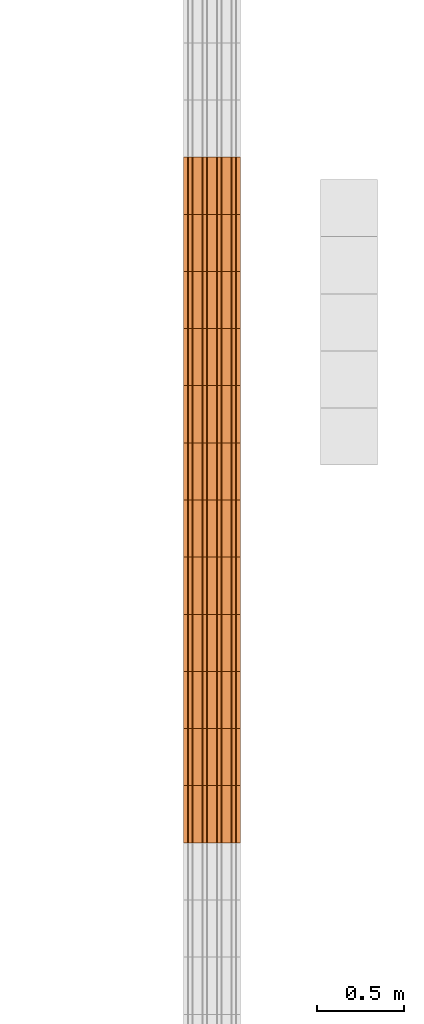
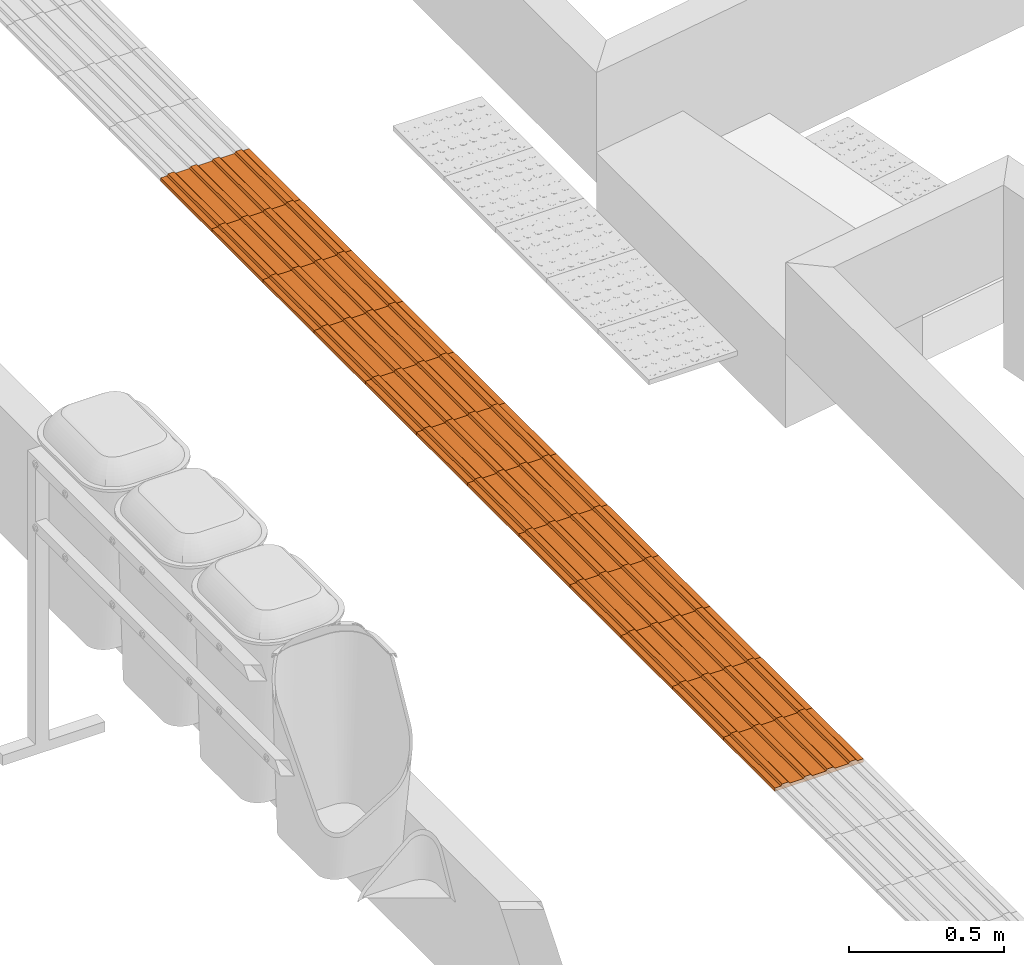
# One storey, part 195 of 237: 12 proxies.
"""IFC2X3 building model written with IfcOpenShell, lengths in millimetres."""

from ifc_helpers import new_model, entity, si_unit, converted_unit, derived_unit, money_unit, direction, frame, origin_with_axes, place, context, subcontext, project, spatial, open_shell, surface_model, source, transform, mapped, type_object, element, save


model = new_model("IFC2X3")

# Units and contexts
model_context = context("Model", 3, precision=0.01, world=origin_with_axes(), true_north=direction((0.0, 1.0)))
body_context = subcontext(model_context, "Body", "Model", "MODEL_VIEW")
ifc_project = project(units=[si_unit("LENGTHUNIT", "METRE", prefix="MILLI"), si_unit("AREAUNIT", "SQUARE_METRE"), si_unit("VOLUMEUNIT", "CUBIC_METRE"), converted_unit("PLANEANGLEUNIT", "DEGREE", entity("IfcPlaneAngleMeasure", 0.0174532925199), si_unit("PLANEANGLEUNIT", "RADIAN"), dimensions=[0, 0, 0, 0, 0, 0, 0]), money_unit("USD"), converted_unit("TIMEUNIT", "Year", entity("IfcTimeMeasure", 31556926.0), si_unit("TIMEUNIT", "SECOND"), dimensions=[0, 0, 1, 0, 0, 0, 0]), si_unit("MASSUNIT", "GRAM", prefix="KILO"), si_unit("THERMODYNAMICTEMPERATUREUNIT", "DEGREE_CELSIUS"), si_unit("LUMINOUSINTENSITYUNIT", "LUMEN"), si_unit("ENERGYUNIT", "JOULE", prefix="MEGA"), derived_unit("THERMALCONDUCTANCEUNIT", [(si_unit("POWERUNIT", "WATT"), 1), (si_unit("LENGTHUNIT", "METRE"), -1), (si_unit("THERMODYNAMICTEMPERATUREUNIT", "KELVIN"), -1)]), derived_unit("SPECIFICHEATCAPACITYUNIT", [(si_unit("ENERGYUNIT", "JOULE"), 1), (si_unit("MASSUNIT", "GRAM", prefix="KILO"), -1), (si_unit("THERMODYNAMICTEMPERATUREUNIT", "KELVIN"), -1)]), derived_unit("MASSDENSITYUNIT", [(si_unit("MASSUNIT", "GRAM", prefix="KILO"), 1), (si_unit("VOLUMEUNIT", "CUBIC_METRE"), -1)])], contexts=[model_context])

# Site, building, storey
site_placement = place(None, origin_with_axes())
site = spatial("IfcSite", under=ifc_project, at=site_placement, Name="Local", CompositionType="ELEMENT")
building_placement = place(site_placement, origin_with_axes())
building = spatial("IfcBuilding", under=site, at=building_placement, Name="Construção", CompositionType="ELEMENT")
storey_placement = place(building_placement, origin_with_axes())
storey = spatial("IfcBuildingStorey", under=building, at=storey_placement, Name="Pavimento Térreo", CompositionType="ELEMENT", Elevation=0.0)

# Proxies
building_element_proxy_type = type_object("IfcBuildingElementProxyType", Name="Piso Direcional 27", PredefinedType="NOTDEFINED")
shared_shape = source(origin_with_axes(), body_context, "Body", "SurfaceModel", [
    surface_model("IfcShellBasedSurfaceModel", [(0.0, -47.258225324, 4.02852049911), (330.0, -47.258225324, 4.02852049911), (330.0, -41.665004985, 10.6951871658), (0.0, -41.665004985, 10.6951871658)], [open_shell([[[0, 1, 2, 3]]])]),
    surface_model("IfcShellBasedSurfaceModel", [(330.0, -153.529411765, -9.30481283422), (330.0, 176.470588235, -9.30481283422), (330.0, 176.470588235, 4.02852049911), (330.0, 154.097706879, 4.02852049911), (330.0, 148.50448654, 10.6951871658), (330.0, 126.131605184, 10.6951871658), (330.0, 120.538384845, 4.02852049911), (330.0, 70.1994017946, 4.02852049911), (330.0, 64.6061814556, 10.6951871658), (330.0, 42.2333000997, 10.6951871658), (330.0, 36.6400797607, 4.02852049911), (330.0, -13.6989032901, 4.02852049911), (330.0, -19.2921236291, 10.6951871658), (330.0, -41.665004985, 10.6951871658), (330.0, -47.258225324, 4.02852049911), (330.0, -97.5972083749, 4.02852049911), (330.0, -103.190428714, 10.6951871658), (330.0, -125.56331007, 10.6951871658), (330.0, -131.156530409, 4.02852049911), (330.0, -153.529411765, 4.02852049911)], [open_shell([[[0, 1, 2, 3, 4, 5, 6, 7, 8, 9, 10, 11, 12, 13, 14, 15, 16, 17, 18, 19]]])]),
    surface_model("IfcShellBasedSurfaceModel", [(0.0, -19.2921236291, 10.6951871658), (330.0, -19.2921236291, 10.6951871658), (330.0, -13.6989032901, 4.02852049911), (0.0, -13.6989032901, 4.02852049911)], [open_shell([[[0, 1, 2, 3]]])]),
    surface_model("IfcShellBasedSurfaceModel", [(0.0, -103.190428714, 10.6951871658), (330.0, -103.190428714, 10.6951871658), (330.0, -97.5972083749, 4.02852049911), (0.0, -97.5972083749, 4.02852049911)], [open_shell([[[0, 1, 2, 3]]])]),
    surface_model("IfcShellBasedSurfaceModel", [(0.0, 64.6061814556, 10.6951871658), (330.0, 64.6061814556, 10.6951871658), (330.0, 70.1994017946, 4.02852049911), (0.0, 70.1994017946, 4.02852049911)], [open_shell([[[0, 1, 2, 3]]])]),
    surface_model("IfcShellBasedSurfaceModel", [(0.0, 36.6400797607, 4.02852049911), (330.0, 36.6400797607, 4.02852049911), (330.0, 42.2333000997, 10.6951871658), (0.0, 42.2333000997, 10.6951871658)], [open_shell([[[0, 1, 2, 3]]])]),
    surface_model("IfcShellBasedSurfaceModel", [(0.0, -131.156530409, 4.02852049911), (330.0, -131.156530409, 4.02852049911), (330.0, -125.56331007, 10.6951871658), (0.0, -125.56331007, 10.6951871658)], [open_shell([[[0, 1, 2, 3]]])]),
    surface_model("IfcShellBasedSurfaceModel", [(0.0, 176.470588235, 4.02852049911), (0.0, 154.097706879, 4.02852049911), (330.0, 154.097706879, 4.02852049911), (330.0, 176.470588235, 4.02852049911)], [open_shell([[[0, 1, 2, 3]]])]),
    surface_model("IfcShellBasedSurfaceModel", [(0.0, 120.538384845, 4.02852049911), (330.0, 120.538384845, 4.02852049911), (330.0, 126.131605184, 10.6951871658), (0.0, 126.131605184, 10.6951871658)], [open_shell([[[0, 1, 2, 3]]])]),
    surface_model("IfcShellBasedSurfaceModel", [(0.0, 148.50448654, 10.6951871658), (330.0, 148.50448654, 10.6951871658), (330.0, 154.097706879, 4.02852049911), (0.0, 154.097706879, 4.02852049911)], [open_shell([[[0, 1, 2, 3]]])]),
    surface_model("IfcShellBasedSurfaceModel", [(0.0, 36.6400797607, 4.02852049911), (0.0, -13.6989032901, 4.02852049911), (330.0, -13.6989032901, 4.02852049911), (330.0, 36.6400797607, 4.02852049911)], [open_shell([[[0, 1, 2, 3]]])]),
    surface_model("IfcShellBasedSurfaceModel", [(0.0, 120.538384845, 4.02852049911), (0.0, 70.1994017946, 4.02852049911), (330.0, 70.1994017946, 4.02852049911), (330.0, 120.538384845, 4.02852049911)], [open_shell([[[0, 1, 2, 3]]])]),
    surface_model("IfcShellBasedSurfaceModel", [(0.0, 148.50448654, 10.6951871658), (0.0, 126.131605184, 10.6951871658), (330.0, 126.131605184, 10.6951871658), (330.0, 148.50448654, 10.6951871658)], [open_shell([[[0, 1, 2, 3]]])]),
    surface_model("IfcShellBasedSurfaceModel", [(0.0, 120.538384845, 4.02852049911), (0.0, 126.131605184, 10.6951871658), (0.0, 148.50448654, 10.6951871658), (0.0, 154.097706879, 4.02852049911), (0.0, 176.470588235, 4.02852049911), (0.0, 176.470588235, -9.30481283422), (0.0, -153.529411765, -9.30481283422), (0.0, -153.529411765, 4.02852049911), (0.0, -131.156530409, 4.02852049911), (0.0, -125.56331007, 10.6951871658), (0.0, -103.190428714, 10.6951871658), (0.0, -97.5972083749, 4.02852049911), (0.0, -47.258225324, 4.02852049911), (0.0, -41.665004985, 10.6951871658), (0.0, -19.2921236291, 10.6951871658), (0.0, -13.6989032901, 4.02852049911), (0.0, 36.6400797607, 4.02852049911), (0.0, 42.2333000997, 10.6951871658), (0.0, 64.6061814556, 10.6951871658), (0.0, 70.1994017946, 4.02852049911)], [open_shell([[[0, 1, 2, 3, 4, 5, 6, 7, 8, 9, 10, 11, 12, 13, 14, 15, 16, 17, 18, 19]]])]),
    surface_model("IfcShellBasedSurfaceModel", [(330.0, -41.665004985, 10.6951871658), (330.0, -19.2921236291, 10.6951871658), (0.0, -19.2921236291, 10.6951871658), (0.0, -41.665004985, 10.6951871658)], [open_shell([[[0, 1, 2, 3]]])]),
    surface_model("IfcShellBasedSurfaceModel", [(0.0, -47.258225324, 4.02852049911), (0.0, -97.5972083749, 4.02852049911), (330.0, -97.5972083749, 4.02852049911), (330.0, -47.258225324, 4.02852049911)], [open_shell([[[0, 1, 2, 3]]])]),
    surface_model("IfcShellBasedSurfaceModel", [(330.0, 42.2333000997, 10.6951871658), (330.0, 64.6061814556, 10.6951871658), (0.0, 64.6061814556, 10.6951871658), (0.0, 42.2333000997, 10.6951871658)], [open_shell([[[0, 1, 2, 3]]])]),
    surface_model("IfcShellBasedSurfaceModel", [(330.0, -125.56331007, 10.6951871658), (330.0, -103.190428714, 10.6951871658), (0.0, -103.190428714, 10.6951871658), (0.0, -125.56331007, 10.6951871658)], [open_shell([[[0, 1, 2, 3]]])]),
    surface_model("IfcShellBasedSurfaceModel", [(330.0, 176.470588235, -9.30481283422), (0.0, 176.470588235, -9.30481283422), (0.0, 176.470588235, 4.02852049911), (330.0, 176.470588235, 4.02852049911)], [open_shell([[[0, 1, 2, 3]]])]),
    surface_model("IfcShellBasedSurfaceModel", [(330.0, -153.529411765, -9.30481283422), (0.0, -153.529411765, -9.30481283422), (0.0, 176.470588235, -9.30481283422), (330.0, 176.470588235, -9.30481283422)], [open_shell([[[0, 1, 2, 3]]])]),
    surface_model("IfcShellBasedSurfaceModel", [(330.0, -153.529411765, 4.02852049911), (330.0, -131.156530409, 4.02852049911), (0.0, -131.156530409, 4.02852049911), (0.0, -153.529411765, 4.02852049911)], [open_shell([[[0, 1, 2, 3]]])]),
    surface_model("IfcShellBasedSurfaceModel", [(0.0, -153.529411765, -9.30481283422), (330.0, -153.529411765, -9.30481283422), (330.0, -153.529411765, 4.02852049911), (0.0, -153.529411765, 4.02852049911)], [open_shell([[[0, 1, 2, 3]]])]),
])
for number, where, z_axis, x_axis, name in (
    (1, (135346.086311, 25363.5386356, -7938.92704592), (0.0, 0.0, 1.0), (0.0, -1.0, 0.0), "Objeto-0055"),
    (2, (135346.086311, 25033.5685995, -7938.92704592), (0.0, 0.0, 1.0), (0.0, -1.0, 0.0), "Objeto-0055"),
    (3, (135346.086311, 24703.5985633, -7938.92704592), (0.0, 0.0, 1.0), (0.0, -1.0, 0.0), "Objeto-0055"),
    (4, (135346.086311, 24373.6285272, -7938.92704592), (0.0, 0.0, 1.0), (0.0, -1.0, 0.0), "Objeto-0055"),
    (5, (135346.086311, 24043.6584911, -7938.92704592), (0.0, 0.0, 1.0), (0.0, -1.0, 0.0), "Objeto-0055"),
    (6, (135346.086311, 23713.6884549, -7938.92704592), (0.0, 0.0, 1.0), (0.0, -1.0, 0.0), "Objeto-0055"),
    (7, (135346.086311, 23383.7184188, -7938.92704592), (0.0, 0.0, 1.0), (0.0, -1.0, 0.0), "Objeto-0055"),
    (8, (135346.086311, 23053.7483827, -7938.92704592), (0.0, 0.0, 1.0), (0.0, -1.0, 0.0), "Objeto-0055"),
    (9, (135346.086311, 22723.7783465, -7938.92704592), (0.0, 0.0, 1.0), (0.0, -1.0, 0.0), "Objeto-0055"),
    (10, (135346.086311, 22393.7783465, -7938.92704592), (0.0, 0.0, 1.0), (0.0, -1.0, 0.0), "Objeto-0055"),
    (11, (135346.086311, 22063.8083104, -7938.92704592), (0.0, 0.0, 1.0), (0.0, -1.0, 0.0), "Objeto-0055"),
    (12, (135346.086311, 21733.8382743, -7938.92704592), (0.0, 0.0, 1.0), (0.0, -1.0, 0.0), "Objeto-0055"),
):
    element("IfcBuildingElementProxy", number, at=place(storey_placement, frame(where, z_axis=z_axis, x_axis=x_axis)), inside=storey, type_object=building_element_proxy_type, Name=name, context=body_context, shape_type="MappedRepresentation", body=[
        mapped(shared_shape, transform((0.0, 0.0, 0.0))),
    ])

save(model, "model.ifc")
